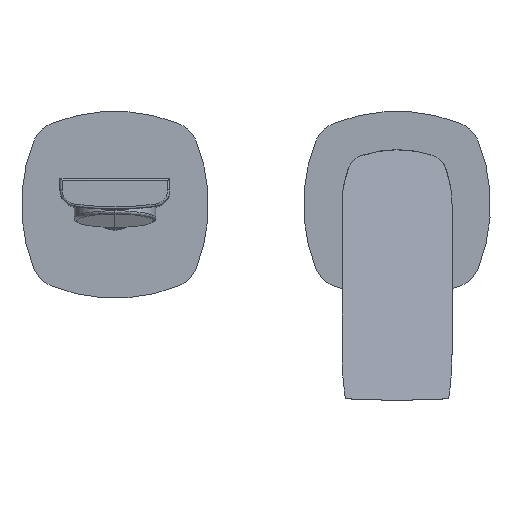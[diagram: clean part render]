
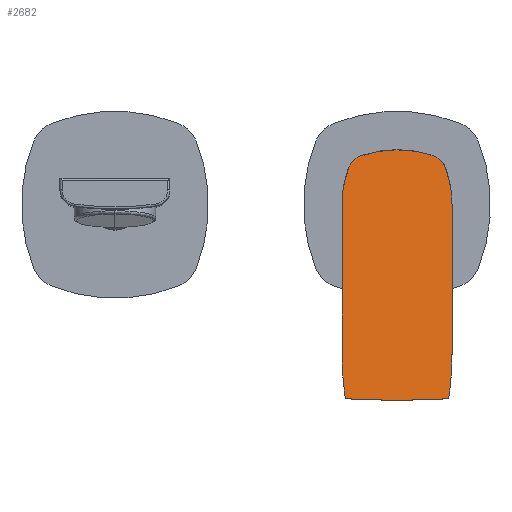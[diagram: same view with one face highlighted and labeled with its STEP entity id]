
A CAD part, top view. The second image highlights one B-rep face of the part: STEP entity #2682.
In plain terms, the highlighted planar face has unit normal (0, 0.134, 0.991).
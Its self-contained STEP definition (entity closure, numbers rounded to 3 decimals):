
#2212 = EDGE_CURVE('',#2213,#2215,#2217,.T.);
#2213 = VERTEX_POINT('',#2214);
#2214 = CARTESIAN_POINT('',(80.5,-52.75,61.763));
#2215 = VERTEX_POINT('',#2216);
#2216 = CARTESIAN_POINT('',(80.5,0.05,
    54.641));
#2217 = LINE('',#2218,#2219);
#2218 = CARTESIAN_POINT('',(80.5,-52.75,61.763));
#2219 = VECTOR('',#2220,1.);
#2220 = DIRECTION('',(0.,0.991,-0.134
    ));
#2277 = EDGE_CURVE('',#2278,#2280,#2282,.T.);
#2278 = VERTEX_POINT('',#2279);
#2279 = CARTESIAN_POINT('',(119.5,0.05,
    54.641));
#2280 = VERTEX_POINT('',#2281);
#2281 = CARTESIAN_POINT('',(119.5,-52.75,61.763));
#2282 = LINE('',#2283,#2284);
#2283 = CARTESIAN_POINT('',(119.5,0.05,
    54.641));
#2284 = VECTOR('',#2285,1.);
#2285 = DIRECTION('',(0.,-0.991,0.134
    ));
#2345 = VERTEX_POINT('',#2346);
#2346 = CARTESIAN_POINT('',(117.053,13.156,
    52.873));
#2352 = EDGE_CURVE('',#2345,#2278,#2353,.T.);
#2353 = ELLIPSE('',#2354,36.643,36.314);
#2354 = AXIS2_PLACEMENT_3D('',#2355,#2356,#2357);
#2355 = CARTESIAN_POINT('',(83.186,0.05,
    54.641));
#2356 = DIRECTION('',(0.,-0.134,
    -0.991));
#2357 = DIRECTION('',(0.,0.991,-0.134)
  );
#2386 = VERTEX_POINT('',#2387);
#2387 = CARTESIAN_POINT('',(112.785,17.255,
    52.32));
#2393 = EDGE_CURVE('',#2386,#2345,#2394,.T.);
#2394 = ELLIPSE('',#2395,7.063,7.);
#2395 = AXIS2_PLACEMENT_3D('',#2396,#2397,#2398);
#2396 = CARTESIAN_POINT('',(110.524,10.63,
    53.213));
#2397 = DIRECTION('',(0.,-0.134,
    -0.991));
#2398 = DIRECTION('',(0.,0.991,-0.134)
  );
#2419 = VERTEX_POINT('',#2420);
#2420 = CARTESIAN_POINT('',(87.215,17.255,
    52.32));
#2426 = EDGE_CURVE('',#2419,#2386,#2427,.T.);
#2427 = ELLIPSE('',#2428,39.944,39.585);
#2428 = AXIS2_PLACEMENT_3D('',#2429,#2430,#2431);
#2429 = CARTESIAN_POINT('',(100.,-20.209,
    57.373));
#2430 = DIRECTION('',(0.,-0.134,
    -0.991));
#2431 = DIRECTION('',(0.,0.991,-0.134)
  );
#2452 = VERTEX_POINT('',#2453);
#2453 = CARTESIAN_POINT('',(82.947,13.156,
    52.873));
#2459 = EDGE_CURVE('',#2452,#2419,#2460,.T.);
#2460 = ELLIPSE('',#2461,7.063,7.);
#2461 = AXIS2_PLACEMENT_3D('',#2462,#2463,#2464);
#2462 = CARTESIAN_POINT('',(89.476,10.63,
    53.213));
#2463 = DIRECTION('',(0.,-0.134,
    -0.991));
#2464 = DIRECTION('',(0.,0.991,-0.134)
  );
#2483 = EDGE_CURVE('',#2215,#2452,#2484,.T.);
#2484 = ELLIPSE('',#2485,36.643,36.314);
#2485 = AXIS2_PLACEMENT_3D('',#2486,#2487,#2488);
#2486 = CARTESIAN_POINT('',(116.814,0.05,
    54.641));
#2487 = DIRECTION('',(0.,-0.134,
    -0.991));
#2488 = DIRECTION('',(0.,-0.991,0.134)
  );
#2498 = EDGE_CURVE('',#2499,#2213,#2501,.T.);
#2499 = VERTEX_POINT('',#2500);
#2500 = CARTESIAN_POINT('',(81.578,-68.055,
    63.828));
#2501 = ELLIPSE('',#2502,110.204,109.215);
#2502 = AXIS2_PLACEMENT_3D('',#2503,#2504,#2505);
#2503 = CARTESIAN_POINT('',(189.715,-52.75,61.763));
#2504 = DIRECTION('',(0.,-0.134,
    -0.991));
#2505 = DIRECTION('',(0.,0.991,-0.134
    ));
#2533 = EDGE_CURVE('',#2534,#2536,#2538,.T.);
#2534 = VERTEX_POINT('',#2535);
#2535 = CARTESIAN_POINT('',(117.489,-68.913,
    63.944));
#2536 = VERTEX_POINT('',#2537);
#2537 = CARTESIAN_POINT('',(82.511,-68.913,
    63.944));
#2538 = ELLIPSE('',#2539,309.929,307.146);
#2539 = AXIS2_PLACEMENT_3D('',#2540,#2541,#2542);
#2540 = CARTESIAN_POINT('',(100.,237.735,
    22.577));
#2541 = DIRECTION('',(0.,-0.134,
    -0.991));
#2542 = DIRECTION('',(0.,0.991,-0.134
    ));
#2577 = EDGE_CURVE('',#2280,#2578,#2580,.T.);
#2578 = VERTEX_POINT('',#2579);
#2579 = CARTESIAN_POINT('',(118.422,-68.055,
    63.828));
#2580 = ELLIPSE('',#2581,110.204,109.215);
#2581 = AXIS2_PLACEMENT_3D('',#2582,#2583,#2584);
#2582 = CARTESIAN_POINT('',(10.285,-52.75,61.763));
#2583 = DIRECTION('',(0.,-0.134,
    -0.991));
#2584 = DIRECTION('',(0.,-0.991,0.134)
  );
#2612 = EDGE_CURVE('',#2536,#2499,#2613,.T.);
#2613 = ELLIPSE('',#2614,1.009,1.);
#2614 = AXIS2_PLACEMENT_3D('',#2615,#2616,#2617);
#2615 = CARTESIAN_POINT('',(82.568,-67.915,
    63.809));
#2616 = DIRECTION('',(0.,-0.134,
    -0.991));
#2617 = DIRECTION('',(0.,0.991,-0.134
    ));
#2642 = EDGE_CURVE('',#2578,#2534,#2643,.T.);
#2643 = ELLIPSE('',#2644,1.009,1.);
#2644 = AXIS2_PLACEMENT_3D('',#2645,#2646,#2647);
#2645 = CARTESIAN_POINT('',(117.432,-67.915,
    63.809));
#2646 = DIRECTION('',(0.,-0.134,
    -0.991));
#2647 = DIRECTION('',(0.,0.991,-0.134
    ));
#2682 = ADVANCED_FACE('',(#2683),#2697,.F.);
#2683 = FACE_BOUND('',#2684,.T.);
#2684 = EDGE_LOOP('',(#2685,#2686,#2687,#2688,#2689,#2690,#2691,#2692,
    #2693,#2694,#2695,#2696));
#2685 = ORIENTED_EDGE('',*,*,#2212,.F.);
#2686 = ORIENTED_EDGE('',*,*,#2498,.F.);
#2687 = ORIENTED_EDGE('',*,*,#2612,.F.);
#2688 = ORIENTED_EDGE('',*,*,#2533,.F.);
#2689 = ORIENTED_EDGE('',*,*,#2642,.F.);
#2690 = ORIENTED_EDGE('',*,*,#2577,.F.);
#2691 = ORIENTED_EDGE('',*,*,#2277,.F.);
#2692 = ORIENTED_EDGE('',*,*,#2352,.F.);
#2693 = ORIENTED_EDGE('',*,*,#2393,.F.);
#2694 = ORIENTED_EDGE('',*,*,#2426,.F.);
#2695 = ORIENTED_EDGE('',*,*,#2459,.F.);
#2696 = ORIENTED_EDGE('',*,*,#2483,.F.);
#2697 = PLANE('',#2698);
#2698 = AXIS2_PLACEMENT_3D('',#2699,#2700,#2701);
#2699 = CARTESIAN_POINT('',(125.,-79.162,
    65.326));
#2700 = DIRECTION('',(0.,-0.134,
    -0.991));
#2701 = DIRECTION('',(-1.,0.,0.));
